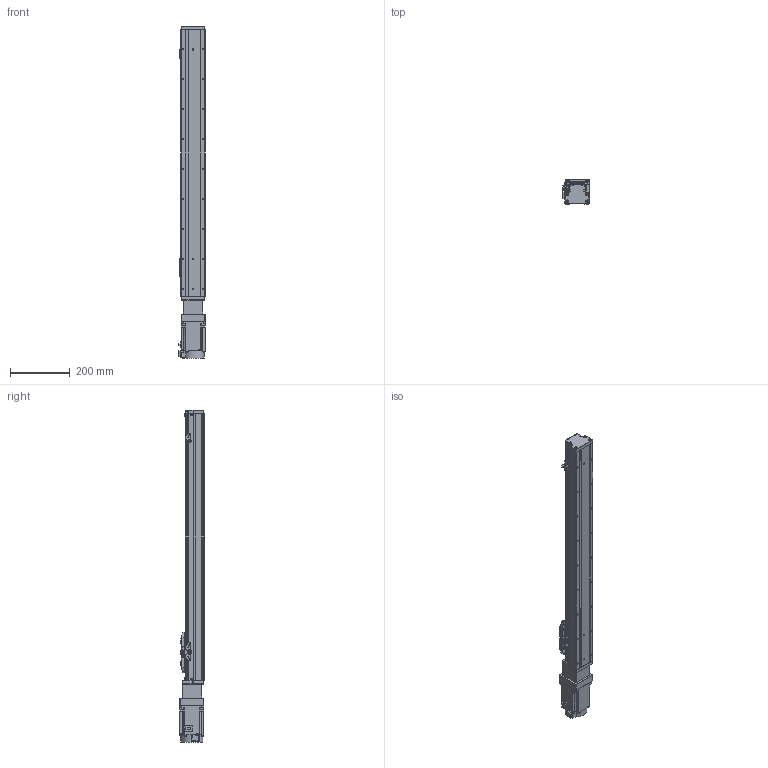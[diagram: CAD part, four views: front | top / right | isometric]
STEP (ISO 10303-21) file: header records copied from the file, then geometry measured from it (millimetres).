
FILE_DESCRIPTION (( 'STEP AP203' ), '1' );
FILE_NAME ('GTH8-700-BC-M75-C4.step', '2023-02-14T02:20:33', ( '微软用户' ), ( '微软中国' ), 'SwSTEP 2.0', 'SolidWorks 2020', '' );
FILE_SCHEMA (( 'CONFIG_CONTROL_DESIGN' ));
Length unit declared in the file: millimetre
Products named in the file (19): GTH8-700-BC-M75-C4; GBT 70.3-M3℅6; GBT96.1-2002 3×0.8; GTH80-022; BTH-M3X5X6; GTH80-001_700; GBT 70.1-M3℅6; CTHA86-006-1_CTHA86-006-4; GTH80-003; GBT 70.1-M4×16; CTHA86-013; GTH80-004; GTH80-028; CTHA86-027; GTH80-006; GTH50-024; hg-kn73j_-s100; GTH80-013; GTH50-023
Assembly tree (60 placements, depth 2):
  GTH8-700-BC-M75-C4
    GTH80-001_700
    GTH80-003
    GTH80-004
    GTH80-006
    GTH80-013
    GBT 70.3-M3℅6  x6
    GTH80-022
    GBT 70.1-M3℅6  x14
    GBT 70.1-M4×16  x8
    GTH80-028  x2
    GTH50-024  x3
    GTH50-023  x3
    GBT96.1-2002 3×0.8  x6
    BTH-M3X5X6  x8
    CTHA86-006-1_CTHA86-006-4
    CTHA86-013
    CTHA86-027
    hg-kn73j_-s100
Bounding box: 89.8 x 81.72 x 1107.2 mm (x, y, z)
Volume: 5079793.6 mm3; surface area: 510122.5 mm2
Topology: 62 solids, 62 shells, 2261 faces, 5210 edges, 3176 vertices
Faces by surface type: plane 1185, cylinder 619, cone 285, torus 162, sphere 8, bspline 2
Entity records: 39785 total; most frequent: DIRECTION 6559, CARTESIAN_POINT 6554, ORIENTED_EDGE 6010, EDGE_CURVE 3005, AXIS2_PLACEMENT_3D 2299, LINE 1961, VECTOR 1961, VERTEX_POINT 1889
